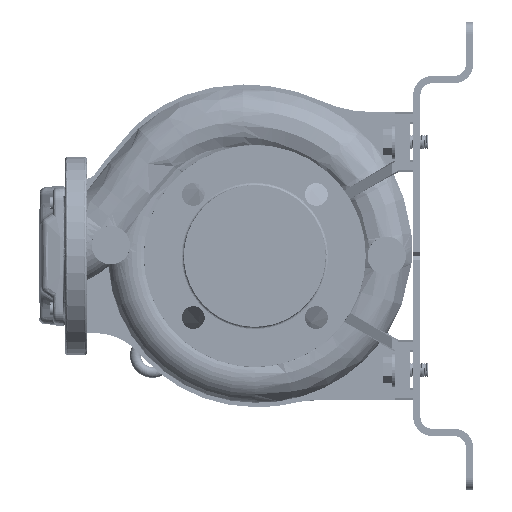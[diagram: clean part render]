
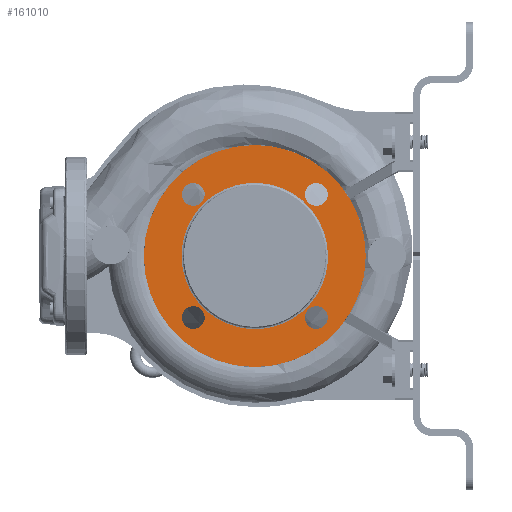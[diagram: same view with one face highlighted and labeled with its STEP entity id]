
A CAD part, left-side view. The second image highlights one B-rep face of the part: STEP entity #161010.
In plain terms, the highlighted planar face has unit normal (-1, 0, 0).
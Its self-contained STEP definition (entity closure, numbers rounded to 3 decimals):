
#444 = FACE_OUTER_BOUND ( 'NONE', #212614, .T. ) ;
#1281 = VERTEX_POINT ( 'NONE', #43924 ) ;
#5618 = DIRECTION ( 'NONE',  ( -1., 0., 0. ) ) ;
#5813 = DIRECTION ( 'NONE',  ( 1., 0., 0. ) ) ;
#6308 = ORIENTED_EDGE ( 'NONE', *, *, #29330, .T. ) ;
#7928 = CARTESIAN_POINT ( 'NONE',  ( -133.206, 90.411, 143.153 ) ) ;
#12863 = EDGE_CURVE ( 'NONE', #209079, #176952, #167166, .T. ) ;
#14671 = AXIS2_PLACEMENT_3D ( 'NONE', #48106, #114296, #180466 ) ;
#17196 = CARTESIAN_POINT ( 'NONE',  ( -133.206, 132.756, 288.028 ) ) ;
#18375 = ORIENTED_EDGE ( 'NONE', *, *, #167657, .F. ) ;
#19500 = EDGE_CURVE ( 'NONE', #1281, #128046, #181560, .T. ) ;
#26244 = DIRECTION ( 'NONE',  ( 0., 0., 1. ) ) ;
#28602 = VERTEX_POINT ( 'NONE', #79268 ) ;
#29330 = EDGE_CURVE ( 'NONE', #31931, #169937, #188848, .T. ) ;
#31931 = VERTEX_POINT ( 'NONE', #174314 ) ;
#33047 = CARTESIAN_POINT ( 'NONE',  ( -133.206, 132.756, 288.028 ) ) ;
#34070 = FACE_BOUND ( 'NONE', #180420, .T. ) ;
#38332 = FACE_BOUND ( 'NONE', #97057, .T. ) ;
#42065 = AXIS2_PLACEMENT_3D ( 'NONE', #126130, #208511, #26244 ) ;
#42647 = DIRECTION ( 'NONE',  ( -1., 0., 0. ) ) ;
#42673 = ORIENTED_EDGE ( 'NONE', *, *, #93520, .F. ) ;
#43924 = CARTESIAN_POINT ( 'NONE',  ( -133.206, 245.021, 236.763 ) ) ;
#45349 = DIRECTION ( 'NONE',  ( -1., 0., 0. ) ) ;
#45467 = ORIENTED_EDGE ( 'NONE', *, *, #145061, .F. ) ;
#47110 = DIRECTION ( 'NONE',  ( 0., 0., 1. ) ) ;
#48106 = CARTESIAN_POINT ( 'NONE',  ( -133.206, 132.756, 185.497 ) ) ;
#54066 = ORIENTED_EDGE ( 'NONE', *, *, #112038, .F. ) ;
#55668 = CARTESIAN_POINT ( 'NONE',  ( -133.206, 123.021, 114.763 ) ) ;
#60199 = CARTESIAN_POINT ( 'NONE',  ( -133.206, 235.286, 194.997 ) ) ;
#61064 = CARTESIAN_POINT ( 'NONE',  ( -133.206, 235.286, 185.497 ) ) ;
#61479 = VERTEX_POINT ( 'NONE', #131543 ) ;
#61761 = CIRCLE ( 'NONE', #68760, 9.5 ) ;
#65523 = CARTESIAN_POINT ( 'NONE',  ( -133.206, 235.286, 288.028 ) ) ;
#68760 = AXIS2_PLACEMENT_3D ( 'NONE', #192927, #94177, #212413 ) ;
#69528 = CIRCLE ( 'NONE', #208098, 9.5 ) ;
#70417 = ORIENTED_EDGE ( 'NONE', *, *, #160229, .F. ) ;
#70765 = CARTESIAN_POINT ( 'NONE',  ( -133.206, 184.021, 236.763 ) ) ;
#71591 = CARTESIAN_POINT ( 'NONE',  ( -133.206, 245.021, 358.763 ) ) ;
#72666 = CARTESIAN_POINT ( 'NONE',  ( -133.206, 245.021, 236.763 ) ) ;
#73052 = CARTESIAN_POINT ( 'NONE',  ( -133.206, 123.021, 236.763 ) ) ;
#76297 = DIRECTION ( 'NONE',  ( 0., 1., 0. ) ) ;
#77122 = CIRCLE ( 'NONE', #14671, 9.5 ) ;
#78277 =( BOUNDED_CURVE ( )  B_SPLINE_CURVE ( 3, ( #202819, #138834, #71591, #72666 ),
 .UNSPECIFIED., .F., .F. ) 
 B_SPLINE_CURVE_WITH_KNOTS ( ( 4, 4 ),
 ( 0., 1. ),
 .UNSPECIFIED. ) 
 CURVE ( )  GEOMETRIC_REPRESENTATION_ITEM ( )  RATIONAL_B_SPLINE_CURVE ( ( 0.957, 0.319, 0.319, 0.957 ) ) 
 REPRESENTATION_ITEM ( '' )  );
#79268 = CARTESIAN_POINT ( 'NONE',  ( -133.206, 235.286, 278.528 ) ) ;
#79469 = VERTEX_POINT ( 'NONE', #178419 ) ;
#80224 = ORIENTED_EDGE ( 'NONE', *, *, #194799, .F. ) ;
#81142 = VERTEX_POINT ( 'NONE', #183784 ) ;
#81169 = CARTESIAN_POINT ( 'NONE',  ( -133.206, 235.286, 185.497 ) ) ;
#83890 = EDGE_LOOP ( 'NONE', ( #18375, #45467 ) ) ;
#89143 = DIRECTION ( 'NONE',  ( 0., 0., 1. ) ) ;
#92011 = AXIS2_PLACEMENT_3D ( 'NONE', #103207, #189919, #106437 ) ;
#93520 = EDGE_CURVE ( 'NONE', #133359, #81142, #77122, .T. ) ;
#93602 = DIRECTION ( 'NONE',  ( 0., 0., 1. ) ) ;
#94177 = DIRECTION ( 'NONE',  ( -1., 0., 0. ) ) ;
#97057 = EDGE_LOOP ( 'NONE', ( #155203, #191656 ) ) ;
#97379 = CIRCLE ( 'NONE', #42065, 92.5 ) ;
#99145 = DIRECTION ( 'NONE',  ( -1., 0., 0. ) ) ;
#99263 = DIRECTION ( 'NONE',  ( -1., 0., 0. ) ) ;
#100275 = PLANE ( 'NONE',  #158219 ) ;
#100322 = DIRECTION ( 'NONE',  ( 0., 0., 1. ) ) ;
#103207 = CARTESIAN_POINT ( 'NONE',  ( -133.206, 235.286, 288.028 ) ) ;
#104566 = FACE_BOUND ( 'NONE', #83890, .T. ) ;
#104720 = AXIS2_PLACEMENT_3D ( 'NONE', #61064, #42647, #93602 ) ;
#106437 = DIRECTION ( 'NONE',  ( 0., 0., 1. ) ) ;
#111015 = ORIENTED_EDGE ( 'NONE', *, *, #19500, .F. ) ;
#112038 = EDGE_CURVE ( 'NONE', #81142, #133359, #61761, .T. ) ;
#114296 = DIRECTION ( 'NONE',  ( -1., 0., 0. ) ) ;
#114963 = DIRECTION ( 'NONE',  ( 0., 0., 1. ) ) ;
#115675 = AXIS2_PLACEMENT_3D ( 'NONE', #17196, #198442, #114963 ) ;
#116266 = ORIENTED_EDGE ( 'NONE', *, *, #195009, .T. ) ;
#120253 = ORIENTED_EDGE ( 'NONE', *, *, #209037, .F. ) ;
#120292 = CIRCLE ( 'NONE', #92011, 9.5 ) ;
#125686 = AXIS2_PLACEMENT_3D ( 'NONE', #81169, #45349, #128949 ) ;
#126130 = CARTESIAN_POINT ( 'NONE',  ( -133.206, 184.021, 236.763 ) ) ;
#128046 = VERTEX_POINT ( 'NONE', #169023 ) ;
#128949 = DIRECTION ( 'NONE',  ( 0., 0., 1. ) ) ;
#131543 = CARTESIAN_POINT ( 'NONE',  ( -133.206, 132.756, 297.528 ) ) ;
#131777 = CIRCLE ( 'NONE', #162914, 9.5 ) ;
#133359 = VERTEX_POINT ( 'NONE', #164167 ) ;
#137157 = FACE_BOUND ( 'NONE', #165914, .T. ) ;
#138183 = CARTESIAN_POINT ( 'NONE',  ( -133.206, 245.021, 236.763 ) ) ;
#138834 = CARTESIAN_POINT ( 'NONE',  ( -133.206, 123.021, 358.763 ) ) ;
#145061 = EDGE_CURVE ( 'NONE', #79469, #61479, #131777, .T. ) ;
#145937 = EDGE_LOOP ( 'NONE', ( #70417, #80224 ) ) ;
#149921 = EDGE_CURVE ( 'NONE', #176952, #209079, #184510, .T. ) ;
#152402 = VERTEX_POINT ( 'NONE', #155748 ) ;
#155203 = ORIENTED_EDGE ( 'NONE', *, *, #149921, .F. ) ;
#155529 = CARTESIAN_POINT ( 'NONE',  ( -133.206, 245.021, 114.763 ) ) ;
#155748 = CARTESIAN_POINT ( 'NONE',  ( -133.206, 235.286, 297.528 ) ) ;
#158219 = AXIS2_PLACEMENT_3D ( 'NONE', #7928, #5813, #76297 ) ;
#160229 = EDGE_CURVE ( 'NONE', #152402, #28602, #120292, .T. ) ;
#161010 = ADVANCED_FACE ( 'NONE', ( #137157, #200078, #38332, #34070, #104566, #444 ), #100275, .F. ) ;
#162914 = AXIS2_PLACEMENT_3D ( 'NONE', #33047, #99263, #100322 ) ;
#164167 = CARTESIAN_POINT ( 'NONE',  ( -133.206, 132.756, 175.997 ) ) ;
#164584 = AXIS2_PLACEMENT_3D ( 'NONE', #70765, #5618, #89143 ) ;
#165914 = EDGE_LOOP ( 'NONE', ( #111015, #120253 ) ) ;
#167166 = CIRCLE ( 'NONE', #104720, 9.5 ) ;
#167657 = EDGE_CURVE ( 'NONE', #61479, #79469, #184857, .T. ) ;
#169023 = CARTESIAN_POINT ( 'NONE',  ( -133.206, 123.021, 236.763 ) ) ;
#169937 = VERTEX_POINT ( 'NONE', #214790 ) ;
#174314 = CARTESIAN_POINT ( 'NONE',  ( -133.206, 184.021, 329.263 ) ) ;
#176952 = VERTEX_POINT ( 'NONE', #60199 ) ;
#178419 = CARTESIAN_POINT ( 'NONE',  ( -133.206, 132.756, 278.528 ) ) ;
#180420 = EDGE_LOOP ( 'NONE', ( #54066, #42673 ) ) ;
#180466 = DIRECTION ( 'NONE',  ( 0., 0., 1. ) ) ;
#181560 =( BOUNDED_CURVE ( )  B_SPLINE_CURVE ( 3, ( #138183, #155529, #55668, #73052 ),
 .UNSPECIFIED., .F., .F. ) 
 B_SPLINE_CURVE_WITH_KNOTS ( ( 4, 4 ),
 ( 0., 1. ),
 .UNSPECIFIED. ) 
 CURVE ( )  GEOMETRIC_REPRESENTATION_ITEM ( )  RATIONAL_B_SPLINE_CURVE ( ( 0.957, 0.319, 0.319, 0.957 ) ) 
 REPRESENTATION_ITEM ( '' )  );
#183784 = CARTESIAN_POINT ( 'NONE',  ( -133.206, 132.756, 194.997 ) ) ;
#184510 = CIRCLE ( 'NONE', #125686, 9.5 ) ;
#184857 = CIRCLE ( 'NONE', #115675, 9.5 ) ;
#188848 = CIRCLE ( 'NONE', #164584, 92.5 ) ;
#189919 = DIRECTION ( 'NONE',  ( -1., 0., 0. ) ) ;
#191656 = ORIENTED_EDGE ( 'NONE', *, *, #12863, .F. ) ;
#192927 = CARTESIAN_POINT ( 'NONE',  ( -133.206, 132.756, 185.497 ) ) ;
#194799 = EDGE_CURVE ( 'NONE', #28602, #152402, #69528, .T. ) ;
#195009 = EDGE_CURVE ( 'NONE', #169937, #31931, #97379, .T. ) ;
#198442 = DIRECTION ( 'NONE',  ( -1., 0., 0. ) ) ;
#200078 = FACE_BOUND ( 'NONE', #145937, .T. ) ;
#202819 = CARTESIAN_POINT ( 'NONE',  ( -133.206, 123.021, 236.763 ) ) ;
#204955 = CARTESIAN_POINT ( 'NONE',  ( -133.206, 235.286, 175.997 ) ) ;
#208098 = AXIS2_PLACEMENT_3D ( 'NONE', #65523, #99145, #47110 ) ;
#208511 = DIRECTION ( 'NONE',  ( -1., 0., 0. ) ) ;
#209037 = EDGE_CURVE ( 'NONE', #128046, #1281, #78277, .T. ) ;
#209079 = VERTEX_POINT ( 'NONE', #204955 ) ;
#212413 = DIRECTION ( 'NONE',  ( 0., 0., 1. ) ) ;
#212614 = EDGE_LOOP ( 'NONE', ( #6308, #116266 ) ) ;
#214790 = CARTESIAN_POINT ( 'NONE',  ( -133.206, 184.021, 144.263 ) ) ;
